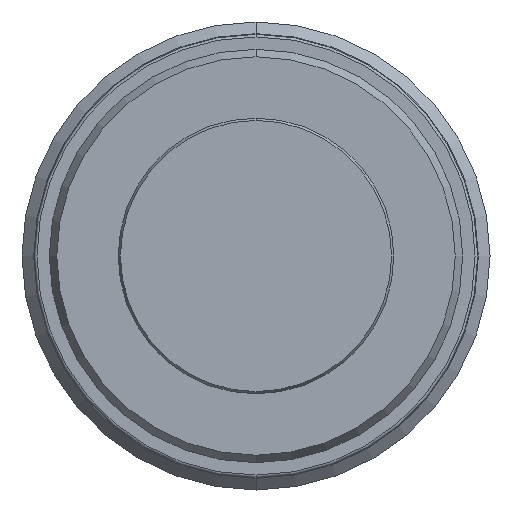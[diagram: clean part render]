
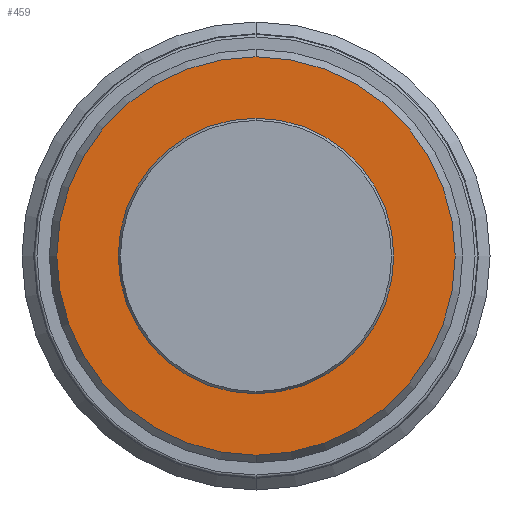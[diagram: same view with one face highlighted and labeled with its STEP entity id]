
A CAD part, front view. The second image highlights one B-rep face of the part: STEP entity #459.
In plain terms, the highlighted planar face has unit normal (0, -1, 0).
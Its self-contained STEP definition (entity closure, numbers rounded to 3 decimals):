
#245=PLANE('',#2886);
#271=FACE_BOUND('',#825,.T.);
#272=FACE_BOUND('',#826,.T.);
#459=ADVANCED_FACE('',(#271,#272),#245,.T.);
#825=EDGE_LOOP('',(#1503,#1504));
#826=EDGE_LOOP('',(#1505,#1506));
#1503=ORIENTED_EDGE('',*,*,#2213,.T.);
#1504=ORIENTED_EDGE('',*,*,#2317,.T.);
#1505=ORIENTED_EDGE('',*,*,#2215,.F.);
#1506=ORIENTED_EDGE('',*,*,#2316,.F.);
#1959=VERTEX_POINT('',#4161);
#1960=VERTEX_POINT('',#4163);
#1961=VERTEX_POINT('',#4167);
#1962=VERTEX_POINT('',#4168);
#2213=EDGE_CURVE('',#1960,#1959,#2554,.T.);
#2215=EDGE_CURVE('',#1961,#1962,#2555,.T.);
#2316=EDGE_CURVE('',#1962,#1961,#2602,.T.);
#2317=EDGE_CURVE('',#1959,#1960,#2603,.T.);
#2554=CIRCLE('',#2794,10.6);
#2555=CIRCLE('',#2796,15.323);
#2602=CIRCLE('',#2883,15.323);
#2603=CIRCLE('',#2885,10.6);
#2794=AXIS2_PLACEMENT_3D('',#4162,#3272,#3273);
#2796=AXIS2_PLACEMENT_3D('',#4166,#3277,#3278);
#2883=AXIS2_PLACEMENT_3D('',#4435,#3485,#3486);
#2885=AXIS2_PLACEMENT_3D('',#4437,#3489,#3490);
#2886=AXIS2_PLACEMENT_3D('',#4438,#3491,#3492);
#3272=DIRECTION('',(0.,1.,0.));
#3273=DIRECTION('',(0.,0.,1.));
#3277=DIRECTION('',(0.,1.,0.));
#3278=DIRECTION('',(0.,0.,1.));
#3485=DIRECTION('',(0.,1.,0.));
#3486=DIRECTION('',(0.,0.,1.));
#3489=DIRECTION('',(0.,1.,0.));
#3490=DIRECTION('',(0.,0.,1.));
#3491=DIRECTION('',(0.,-1.,0.));
#3492=DIRECTION('',(0.,0.,1.));
#4161=CARTESIAN_POINT('',(0.,-2.2,-10.6));
#4162=CARTESIAN_POINT('',(0.,-2.2,0.));
#4163=CARTESIAN_POINT('',(0.,-2.2,10.6));
#4166=CARTESIAN_POINT('',(0.,-2.2,0.));
#4167=CARTESIAN_POINT('',(0.,-2.2,15.323));
#4168=CARTESIAN_POINT('',(0.,-2.2,-15.323));
#4435=CARTESIAN_POINT('',(0.,-2.2,0.));
#4437=CARTESIAN_POINT('',(0.,-2.2,0.));
#4438=CARTESIAN_POINT('',(10.6,-2.2,0.));
